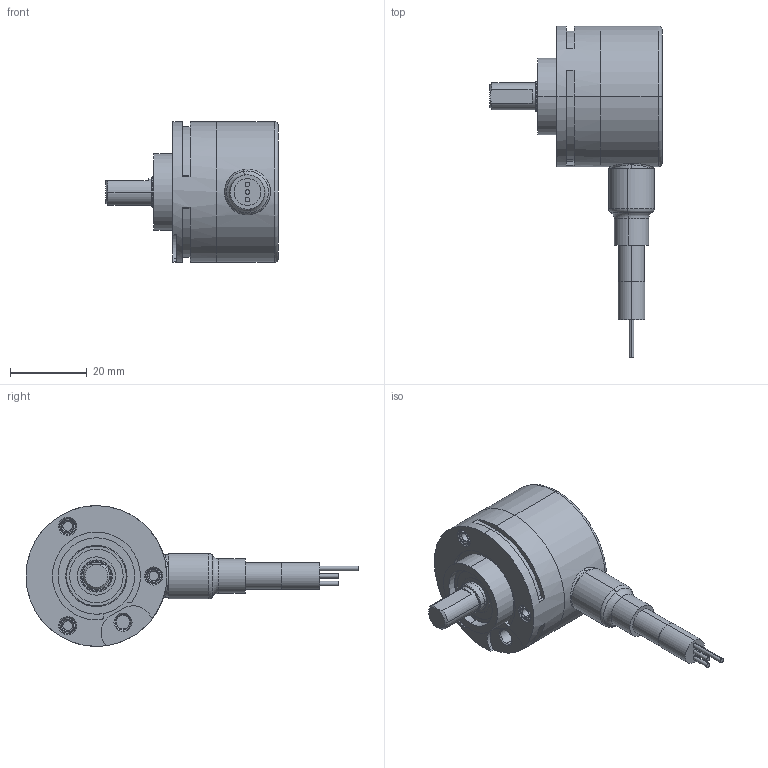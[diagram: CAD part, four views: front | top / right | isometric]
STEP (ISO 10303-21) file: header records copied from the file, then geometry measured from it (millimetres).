
FILE_DESCRIPTION (( 'STEP AP214' ), '1' );
FILE_NAME ('3700.15X2.XXXX.STEP', '2008-11-21T13:47:17', ( 'admin' ), ( 'Fritz Kübler GmbH' ), 'SwSTEP 2.0', 'SolidWorks 2008', '' );
FILE_SCHEMA (( 'AUTOMOTIVE_DESIGN' ));
Length unit declared in the file: millimetre
Products named in the file (1): 3700.15X2.XXXX
Bounding box: 45 x 86.8 x 36.8 mm (x, y, z)
Volume: 15986.6 mm3; surface area: 18259.9 mm2
Topology: 9 solids, 10 shells, 1104 faces, 2939 edges, 1842 vertices
Faces by surface type: plane 347, cylinder 338, bspline 173, torus 124, cone 81, sphere 41
Entity records: 51873 total; most frequent: CARTESIAN_POINT 15039, ORIENTED_EDGE 5752, DIRECTION 4796, EDGE_CURVE 2876, AXIS2_PLACEMENT_3D 2133, VERTEX_POINT 1808, CIRCLE 1201, EDGE_LOOP 1152
